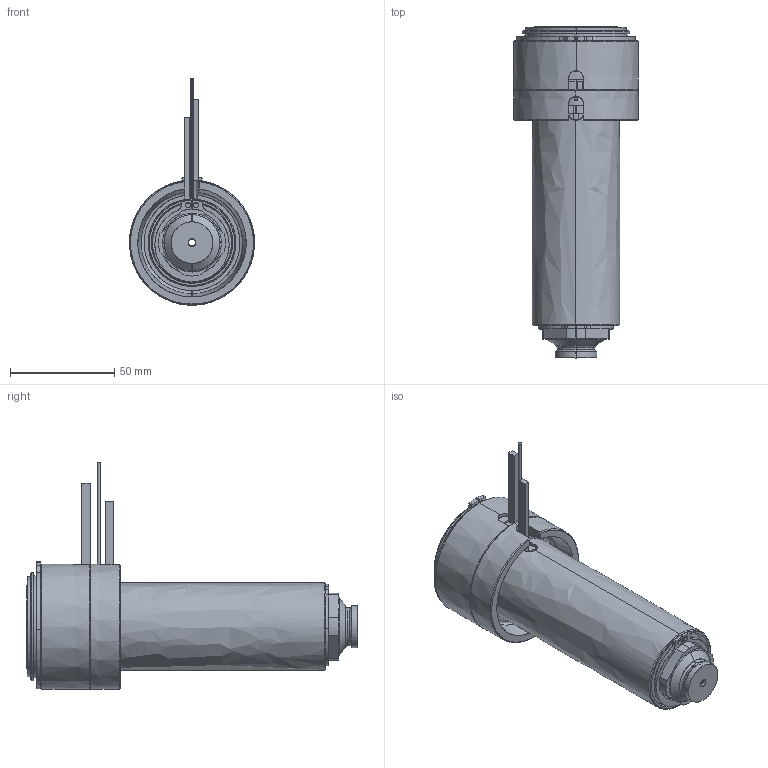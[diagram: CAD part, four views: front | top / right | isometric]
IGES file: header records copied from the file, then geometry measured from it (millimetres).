
Start section: SolidWorks IGES file using analytic representation for surfaces
Global section: file name: C:\Documents and Settings\ws-20\Desktop\TEM\UGER6605-M-A-0 [Øb-3.3 P-0 ØC-17].IGS; native system: SolidWorks 2012; preprocessor: SolidWorks 2012; author: ws-20; date: 120417.135252; units: millimetre
Bounding box: 60 x 159.25 x 108.65 mm (x, y, z)
Surface area: 87815.9 mm2 (no closed solid volume)
Topology: 0 solids, 0 shells, 165 faces, 3058 edges, 3058 vertices
Faces by surface type: revolution 100, bspline 65
